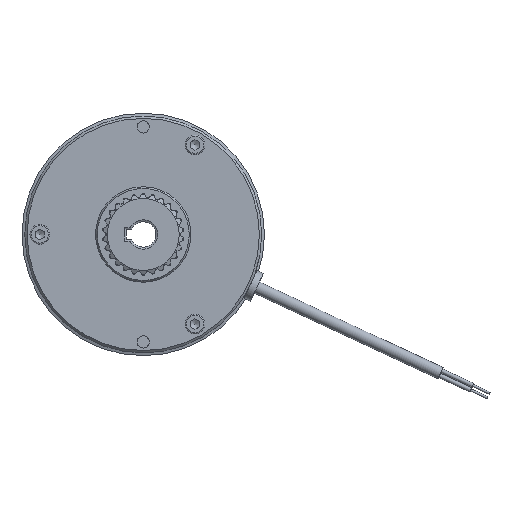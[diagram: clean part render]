
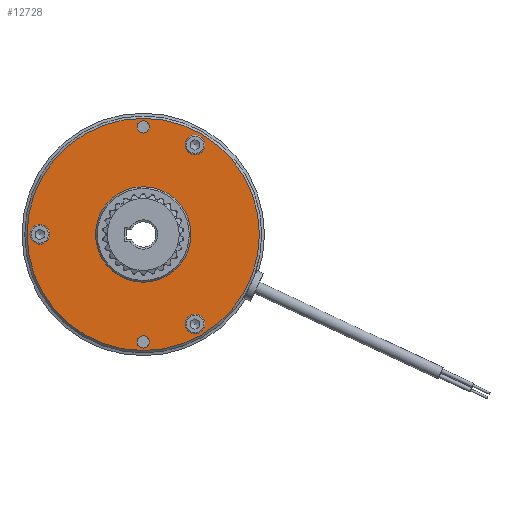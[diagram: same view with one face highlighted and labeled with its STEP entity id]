
A CAD part, left-side view. The second image highlights one B-rep face of the part: STEP entity #12728.
In plain terms, the highlighted planar face has unit normal (-1, 0, 0).
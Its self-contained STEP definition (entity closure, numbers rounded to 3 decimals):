
#128=FACE_BOUND('',#1499,.T.);
#129=FACE_BOUND('',#1500,.T.);
#130=FACE_BOUND('',#1501,.T.);
#131=FACE_BOUND('',#1502,.T.);
#132=FACE_BOUND('',#1503,.T.);
#133=FACE_BOUND('',#1504,.T.);
#373=PLANE('',#13886);
#890=FACE_OUTER_BOUND('',#1498,.T.);
#1498=EDGE_LOOP('',(#10739));
#1499=EDGE_LOOP('',(#10740,#10741));
#1500=EDGE_LOOP('',(#10742,#10743));
#1501=EDGE_LOOP('',(#10744,#10745));
#1502=EDGE_LOOP('',(#10746,#10747));
#1503=EDGE_LOOP('',(#10748,#10749));
#1504=EDGE_LOOP('',(#10750));
#3544=CIRCLE('',#13544,4.25);
#3545=CIRCLE('',#13545,4.25);
#3558=CIRCLE('',#13572,4.25);
#3559=CIRCLE('',#13573,4.25);
#3572=CIRCLE('',#13600,4.25);
#3573=CIRCLE('',#13601,4.25);
#3733=CIRCLE('',#13877,2.65);
#3734=CIRCLE('',#13878,2.65);
#3736=CIRCLE('',#13881,2.65);
#3737=CIRCLE('',#13882,2.65);
#3739=CIRCLE('',#13885,50.5);
#3740=CIRCLE('',#13887,20.75);
#5089=VERTEX_POINT('',#24513);
#5090=VERTEX_POINT('',#24514);
#5116=VERTEX_POINT('',#24605);
#5117=VERTEX_POINT('',#24606);
#5143=VERTEX_POINT('',#24697);
#5144=VERTEX_POINT('',#24698);
#5405=VERTEX_POINT('',#25776);
#5406=VERTEX_POINT('',#25777);
#5408=VERTEX_POINT('',#25784);
#5409=VERTEX_POINT('',#25785);
#5411=VERTEX_POINT('',#25792);
#5412=VERTEX_POINT('',#25796);
#6782=EDGE_CURVE('',#5089,#5090,#3544,.T.);
#6783=EDGE_CURVE('',#5090,#5089,#3545,.T.);
#6819=EDGE_CURVE('',#5116,#5117,#3558,.T.);
#6820=EDGE_CURVE('',#5117,#5116,#3559,.T.);
#6856=EDGE_CURVE('',#5143,#5144,#3572,.T.);
#6857=EDGE_CURVE('',#5144,#5143,#3573,.T.);
#7231=EDGE_CURVE('',#5405,#5406,#3733,.T.);
#7232=EDGE_CURVE('',#5406,#5405,#3734,.T.);
#7235=EDGE_CURVE('',#5408,#5409,#3736,.T.);
#7236=EDGE_CURVE('',#5409,#5408,#3737,.T.);
#7240=EDGE_CURVE('',#5411,#5411,#3739,.T.);
#7241=EDGE_CURVE('',#5412,#5412,#3740,.T.);
#10739=ORIENTED_EDGE('',*,*,#7240,.F.);
#10740=ORIENTED_EDGE('',*,*,#6782,.T.);
#10741=ORIENTED_EDGE('',*,*,#6783,.T.);
#10742=ORIENTED_EDGE('',*,*,#6819,.T.);
#10743=ORIENTED_EDGE('',*,*,#6820,.T.);
#10744=ORIENTED_EDGE('',*,*,#6856,.T.);
#10745=ORIENTED_EDGE('',*,*,#6857,.T.);
#10746=ORIENTED_EDGE('',*,*,#7231,.T.);
#10747=ORIENTED_EDGE('',*,*,#7232,.T.);
#10748=ORIENTED_EDGE('',*,*,#7235,.T.);
#10749=ORIENTED_EDGE('',*,*,#7236,.T.);
#10750=ORIENTED_EDGE('',*,*,#7241,.T.);
#12728=ADVANCED_FACE('',(#890,#128,#129,#130,#131,#132,#133),#373,.T.);
#13544=AXIS2_PLACEMENT_3D('',#24515,#15915,#15916);
#13545=AXIS2_PLACEMENT_3D('',#24516,#15917,#15918);
#13572=AXIS2_PLACEMENT_3D('',#24607,#15987,#15988);
#13573=AXIS2_PLACEMENT_3D('',#24608,#15989,#15990);
#13600=AXIS2_PLACEMENT_3D('',#24699,#16059,#16060);
#13601=AXIS2_PLACEMENT_3D('',#24700,#16061,#16062);
#13877=AXIS2_PLACEMENT_3D('',#25778,#16775,#16776);
#13878=AXIS2_PLACEMENT_3D('',#25779,#16777,#16778);
#13881=AXIS2_PLACEMENT_3D('',#25786,#16784,#16785);
#13882=AXIS2_PLACEMENT_3D('',#25787,#16786,#16787);
#13885=AXIS2_PLACEMENT_3D('',#25794,#16794,#16795);
#13886=AXIS2_PLACEMENT_3D('',#25795,#16796,#16797);
#13887=AXIS2_PLACEMENT_3D('',#25797,#16798,#16799);
#15915=DIRECTION('center_axis',(1.,0.,0.));
#15916=DIRECTION('ref_axis',(0.,-1.,0.));
#15917=DIRECTION('center_axis',(1.,0.,0.));
#15918=DIRECTION('ref_axis',(0.,-1.,0.));
#15987=DIRECTION('center_axis',(1.,0.,0.));
#15988=DIRECTION('ref_axis',(0.,-0.5,-0.866));
#15989=DIRECTION('center_axis',(1.,0.,0.));
#15990=DIRECTION('ref_axis',(0.,-0.5,-0.866));
#16059=DIRECTION('center_axis',(1.,0.,0.));
#16060=DIRECTION('ref_axis',(0.,-1.,0.));
#16061=DIRECTION('center_axis',(1.,0.,0.));
#16062=DIRECTION('ref_axis',(0.,-1.,0.));
#16775=DIRECTION('center_axis',(1.,0.,0.));
#16776=DIRECTION('ref_axis',(0.,0.,
1.));
#16777=DIRECTION('center_axis',(1.,0.,0.));
#16778=DIRECTION('ref_axis',(0.,0.,
1.));
#16784=DIRECTION('center_axis',(1.,0.,0.));
#16785=DIRECTION('ref_axis',(0.,0.,
1.));
#16786=DIRECTION('center_axis',(1.,0.,0.));
#16787=DIRECTION('ref_axis',(0.,0.,
1.));
#16794=DIRECTION('center_axis',(1.,0.,0.));
#16795=DIRECTION('ref_axis',(0.,-1.,0.));
#16796=DIRECTION('center_axis',(-1.,0.,0.));
#16797=DIRECTION('ref_axis',(0.,0.,
1.));
#16798=DIRECTION('center_axis',(1.,0.,0.));
#16799=DIRECTION('ref_axis',(0.,0.,
1.));
#24513=CARTESIAN_POINT('',(-18.2,-26.75,-38.971));
#24514=CARTESIAN_POINT('',(-18.2,-18.25,-38.971));
#24515=CARTESIAN_POINT('Origin',(-18.2,-22.5,-38.971));
#24516=CARTESIAN_POINT('Origin',(-18.2,-22.5,-38.971));
#24605=CARTESIAN_POINT('',(-18.2,42.875,-3.681));
#24606=CARTESIAN_POINT('',(-18.2,47.125,3.681));
#24607=CARTESIAN_POINT('Origin',(-18.2,45.,0.));
#24608=CARTESIAN_POINT('Origin',(-18.2,45.,0.));
#24697=CARTESIAN_POINT('',(-18.2,-26.75,38.971));
#24698=CARTESIAN_POINT('',(-18.2,-18.25,38.971));
#24699=CARTESIAN_POINT('Origin',(-18.2,-22.5,38.971));
#24700=CARTESIAN_POINT('Origin',(-18.2,-22.5,38.971));
#25776=CARTESIAN_POINT('',(-18.2,0.,-44.1));
#25777=CARTESIAN_POINT('',(-18.2,0.,-49.4));
#25778=CARTESIAN_POINT('Origin',(-18.2,0.,-46.75));
#25779=CARTESIAN_POINT('Origin',(-18.2,0.,-46.75));
#25784=CARTESIAN_POINT('',(-18.2,0.,49.4));
#25785=CARTESIAN_POINT('',(-18.2,0.,44.1));
#25786=CARTESIAN_POINT('Origin',(-18.2,0.,46.75));
#25787=CARTESIAN_POINT('Origin',(-18.2,0.,46.75));
#25792=CARTESIAN_POINT('',(-18.2,50.5,0.));
#25794=CARTESIAN_POINT('Origin',(-18.2,0.,0.));
#25795=CARTESIAN_POINT('Origin',(-18.2,25.75,0.));
#25796=CARTESIAN_POINT('',(-18.2,0.,-20.75));
#25797=CARTESIAN_POINT('Origin',(-18.2,0.,0.));
